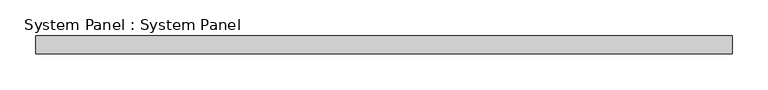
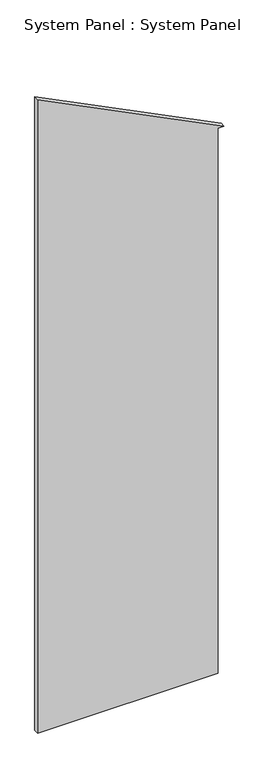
"""IFC4 building model written with IfcOpenShell, lengths in millimetres: plate geometry, System Panel : System Panel."""

from ifc_helpers import new_model, si_unit, frame, origin, place, context, project, spatial, polyline, outline, extrude, source, transform, mapped, element, save


def system_panel_system_panel_f158ec16(model_context):
    return source(origin(), model_context, "Body", "SweptSolid", [
        extrude(outline(polyline([(0.0, 457.99375), (3022.6, 457.99375), (3022.6, 489.74375), (3512.34375, -489.74375), (0.0, -489.74375), (0.0, 457.99375)])), frame((0.0, 19.05, 0.0), z_axis=(0.0, 1.0, 0.0), x_axis=(0.0, 0.0, 1.0)), (0.0, 0.0, 1.0), 25.4),
    ])


if __name__ == "__main__":
    model = new_model("IFC4")
    model_context = context("Model", 3, world=origin())
    ifc_project = project(units=[si_unit("LENGTHUNIT", "METRE", prefix="MILLI")], contexts=[model_context])
    site = spatial("IfcSite", under=ifc_project)
    building = spatial("IfcBuilding", under=site)
    placement = place(None, origin())
    system_panel_system_panel_shape = system_panel_system_panel_f158ec16(model_context)
    element("IfcPlate", 1, ObjectType="System Panel : System Panel", at=placement, inside=building, context=model_context, shape_type="MappedRepresentation", body=[
        mapped(system_panel_system_panel_shape, transform((0.0, 0.0, 0.0), x_axis=(1.0, 0.0, 0.0), y_axis=(0.0, 1.0, 0.0), z_axis=(0.0, 0.0, 1.0))),
    ])
    save(model, "model.ifc")
